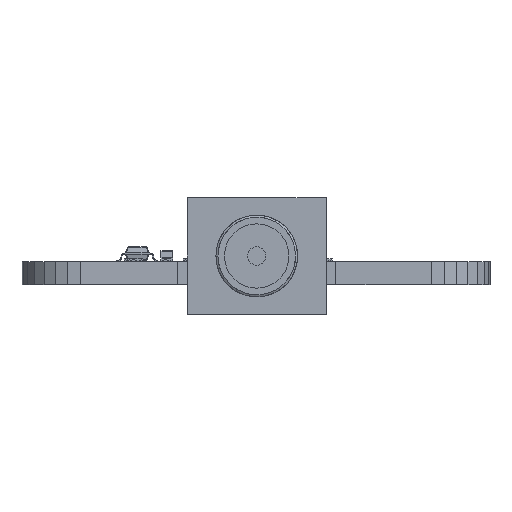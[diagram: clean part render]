
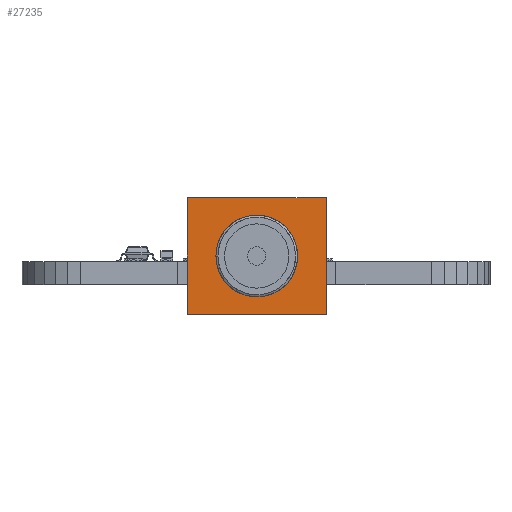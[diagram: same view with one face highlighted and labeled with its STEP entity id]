
A CAD part, left-side view. The second image highlights one B-rep face of the part: STEP entity #27235.
In plain terms, the highlighted planar face has unit normal (-1, 0, 0) as drawn and (0, 0, -1) by its records, which use the part's own axes.
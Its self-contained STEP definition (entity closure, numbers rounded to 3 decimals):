
#27153 = VERTEX_POINT('',#27154);
#27154 = CARTESIAN_POINT('',(-2.65,0.,0.));
#27160 = EDGE_CURVE('',#27153,#27161,#27163,.T.);
#27161 = VERTEX_POINT('',#27162);
#27162 = CARTESIAN_POINT('',(2.65,0.,0.));
#27163 = CIRCLE('',#27164,2.65);
#27164 = AXIS2_PLACEMENT_3D('',#27165,#27166,#27167);
#27165 = CARTESIAN_POINT('',(0.,0.,0.));
#27166 = DIRECTION('',(0.,0.,-1.));
#27167 = DIRECTION('',(-1.,0.,0.));
#27224 = EDGE_CURVE('',#27161,#27153,#27225,.T.);
#27225 = CIRCLE('',#27226,2.65);
#27226 = AXIS2_PLACEMENT_3D('',#27227,#27228,#27229);
#27227 = CARTESIAN_POINT('',(0.,0.,0.));
#27228 = DIRECTION('',(0.,0.,-1.));
#27229 = DIRECTION('',(-1.,0.,0.));
#27235 = ADVANCED_FACE('',(#27236,#27240),#27274,.F.);
#27236 = FACE_BOUND('',#27237,.T.);
#27237 = EDGE_LOOP('',(#27238,#27239));
#27238 = ORIENTED_EDGE('',*,*,#27224,.F.);
#27239 = ORIENTED_EDGE('',*,*,#27160,.F.);
#27240 = FACE_BOUND('',#27241,.T.);
#27241 = EDGE_LOOP('',(#27242,#27252,#27260,#27268));
#27242 = ORIENTED_EDGE('',*,*,#27243,.F.);
#27243 = EDGE_CURVE('',#27244,#27246,#27248,.T.);
#27244 = VERTEX_POINT('',#27245);
#27245 = CARTESIAN_POINT('',(4.75,-4.,0.));
#27246 = VERTEX_POINT('',#27247);
#27247 = CARTESIAN_POINT('',(4.75,4.,0.));
#27248 = LINE('',#27249,#27250);
#27249 = CARTESIAN_POINT('',(4.75,4.,0.));
#27250 = VECTOR('',#27251,1.);
#27251 = DIRECTION('',(0.,1.,0.));
#27252 = ORIENTED_EDGE('',*,*,#27253,.F.);
#27253 = EDGE_CURVE('',#27254,#27244,#27256,.T.);
#27254 = VERTEX_POINT('',#27255);
#27255 = CARTESIAN_POINT('',(-4.75,-4.,0.));
#27256 = LINE('',#27257,#27258);
#27257 = CARTESIAN_POINT('',(-4.75,-4.,0.));
#27258 = VECTOR('',#27259,1.);
#27259 = DIRECTION('',(1.,0.,0.));
#27260 = ORIENTED_EDGE('',*,*,#27261,.F.);
#27261 = EDGE_CURVE('',#27262,#27254,#27264,.T.);
#27262 = VERTEX_POINT('',#27263);
#27263 = CARTESIAN_POINT('',(-4.75,4.,0.));
#27264 = LINE('',#27265,#27266);
#27265 = CARTESIAN_POINT('',(-4.75,4.,0.));
#27266 = VECTOR('',#27267,1.);
#27267 = DIRECTION('',(0.,-1.,0.));
#27268 = ORIENTED_EDGE('',*,*,#27269,.F.);
#27269 = EDGE_CURVE('',#27246,#27262,#27270,.T.);
#27270 = LINE('',#27271,#27272);
#27271 = CARTESIAN_POINT('',(-4.75,4.,0.));
#27272 = VECTOR('',#27273,1.);
#27273 = DIRECTION('',(-1.,0.,0.));
#27274 = PLANE('',#27275);
#27275 = AXIS2_PLACEMENT_3D('',#27276,#27277,#27278);
#27276 = CARTESIAN_POINT('',(0.,0.,0.));
#27277 = DIRECTION('',(0.,0.,1.));
#27278 = DIRECTION('',(1.,0.,0.));
